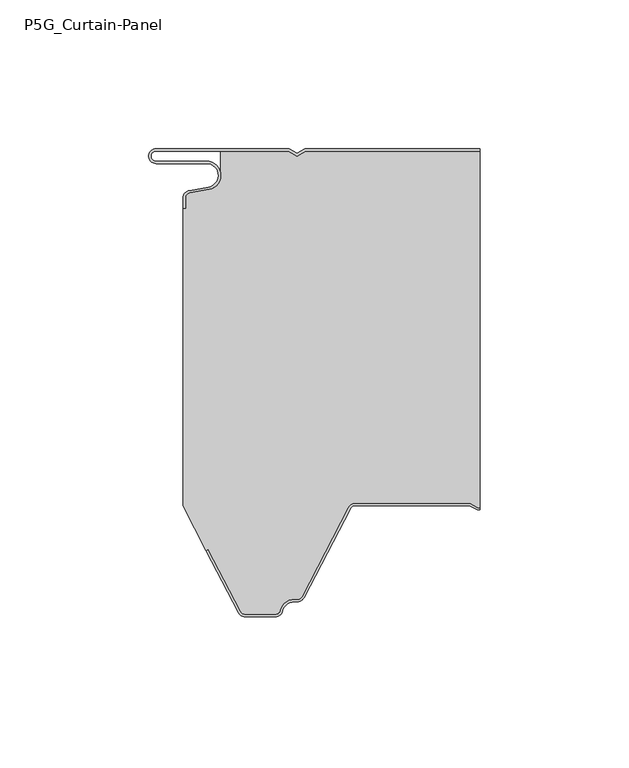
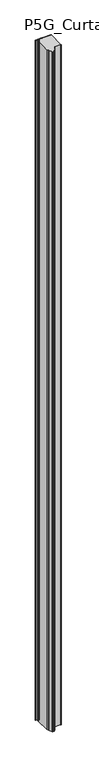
"""IFC4 building model written with IfcOpenShell, lengths in millimetres: plate geometry, P5G_Curtain-Panel : ACH_P5G_Rib-Roof-Panel_120M."""

from ifc_helpers import new_model, si_unit, frame, origin, place, context, project, spatial, polyline, circle_curve, source, transform, mapped, element, save
from ifc_brep_helpers import plane_surface, cylinder_surface, revolved_surface, advanced_brep


def p5g_curtain_panel_b9cf7069(model_context):
    return source(origin(), model_context, "Body", "AdvancedBrep", [
        advanced_brep(
        [(-50.0, -16.636349, 5000.0), (-50.0, -20.0, 5000.0), (-49.2, -20.0, 5000.0), (-49.2, -16.636349, 5000.0), (-47.7125667, -14.863695, 5000.0), (-41.266489, -13.7270771, 5000.0), (-42.1, -4.2, 5000.0), (-59.1, -4.2, 5000.0), (-59.1, -0.8, 5000.0), (-14.5143588, -0.8, 5000.0), (-11.6, -2.4826072, 5000.0), (-8.6856412, -0.8, 5000.0), (50.0, -0.8, 5000.0), (50.0, 0.0, 5000.0), (-8.9000007, 0.0, 5000.0), (-11.6, -1.5588466, 5000.0), (-14.2999993, 0.0, 5000.0), (-59.1, 0.0, 5000.0), (-59.1, -5.0, 5000.0), (-42.1, -5.0, 5000.0), (-41.4054075, -12.939231, 5000.0), (-47.851485, -14.075848, 5000.0), (-50.0, -16.636349, 0.0), (-47.8514853, -14.0758488, 0.0), (-41.4054075, -12.9392309, 0.0), (-42.1, -5.0, 0.0), (-59.1, -5.0, 0.0), (-59.1, 0.0, 0.0), (-14.2999993, 0.0, 0.0), (-11.6, -1.5588466, 0.0), (-8.9000007, 0.0, 0.0), (50.0, 0.0, 0.0), (50.0, -0.8, 0.0), (-8.6856412, -0.8, 0.0), (-11.6, -2.4826072, 0.0), (-14.5143588, -0.8, 0.0), (-59.1, -0.8, 0.0), (-59.1, -4.2, 0.0), (-42.1, -4.2, 0.0), (-41.266489, -13.7270773, 0.0), (-47.7125665, -14.8636942, 0.0), (-49.2, -16.636349, 0.0), (-49.2, -20.0, 0.0), (-50.0, -20.0, 0.0)],
        [
            (0, 1),
            (1, 2),
            (2, 3),
            (3, 4, circle_curve(frame((-47.4, -16.636349, 5000.0), z_axis=(0.0, 0.0, -1.0), x_axis=(1.0, 0.0, 0.0)), 1.8)),
            (4, 5),
            (5, 6, circle_curve(frame((-42.1, -9.0, 5000.0), z_axis=(0.0, 0.0, 1.0), x_axis=(1.0, 0.0, 0.0)), 4.8)),
            (6, 7),
            (7, 8, circle_curve(frame((-59.1, -2.5, 5000.0), z_axis=(0.0, 0.0, -1.0), x_axis=(1.0, 0.0, 0.0)), 1.7)),
            (8, 9),
            (9, 10),
            (10, 11),
            (11, 12),
            (12, 13),
            (13, 14),
            (14, 15),
            (15, 16),
            (16, 17),
            (17, 18, circle_curve(frame((-59.1, -2.5, 5000.0), z_axis=(0.0, 0.0, 1.0), x_axis=(1.0, 0.0, 0.0)), 2.5)),
            (18, 19),
            (19, 20, circle_curve(frame((-42.1, -9.0, 5000.0), z_axis=(0.0, 0.0, -1.0), x_axis=(1.0, 0.0, 0.0)), 4.0)),
            (20, 21),
            (21, 0, circle_curve(frame((-47.4, -16.636349, 5000.0), z_axis=(0.0, 0.0, 1.0), x_axis=(1.0, 0.0, 0.0)), 2.6)),
            (22, 23, circle_curve(frame((-47.4, -16.636349, 0.0), z_axis=(0.0, 0.0, -1.0), x_axis=(1.0, 0.0, 0.0)), 2.6)),
            (23, 24),
            (24, 25, circle_curve(frame((-42.1, -9.0, 0.0), z_axis=(0.0, 0.0, 1.0), x_axis=(1.0, 0.0, 0.0)), 4.0)),
            (25, 26),
            (26, 27, circle_curve(frame((-59.1, -2.5, 0.0), z_axis=(0.0, 0.0, -1.0), x_axis=(1.0, 0.0, 0.0)), 2.5)),
            (27, 28),
            (28, 29),
            (29, 30),
            (30, 31),
            (31, 32),
            (32, 33),
            (33, 34),
            (34, 35),
            (35, 36),
            (36, 37, circle_curve(frame((-59.1, -2.5, 0.0), z_axis=(0.0, 0.0, 1.0), x_axis=(1.0, 0.0, 0.0)), 1.7)),
            (37, 38),
            (38, 39, circle_curve(frame((-42.1, -9.0, 0.0), z_axis=(0.0, 0.0, -1.0), x_axis=(1.0, 0.0, 0.0)), 4.8)),
            (39, 40),
            (40, 41, circle_curve(frame((-47.4, -16.636349, 0.0), z_axis=(0.0, 0.0, 1.0), x_axis=(1.0, 0.0, 0.0)), 1.8)),
            (41, 42),
            (42, 43),
            (43, 22),
            (0, 22),
            (43, 1),
            (42, 2),
            (41, 3),
            (40, 4),
            (39, 5),
            (38, 6),
            (37, 7),
            (36, 8),
            (35, 9),
            (34, 10),
            (33, 11),
            (32, 12),
            (30, 14),
            (13, 31),
            (29, 15),
            (28, 16),
            (27, 17),
            (26, 18),
            (25, 19),
            (24, 20),
            (23, 21),
        ],
        [
            plane_surface(frame((-50.0, 0.0, 5000.0), z_axis=(0.0, 0.0, 1.0), x_axis=(0.0, 1.0, 0.0))),
            plane_surface(frame((-50.0, 0.0, 0.0), z_axis=(0.0, 0.0, -1.0), x_axis=(0.0, 1.0, 0.0))),
            plane_surface(frame((-50.0, -16.636349, 5000.0), z_axis=(-1.0, 0.0, 0.0), x_axis=(0.0, 0.0, -1.0))),
            plane_surface(frame((-50.0, -20.0, 5000.0), z_axis=(0.0, -1.0, 0.0), x_axis=(0.0, 0.0, -1.0))),
            plane_surface(frame((-49.2, -20.0, 5000.0), z_axis=(1.0, 0.0, 0.0), x_axis=(0.0, 0.0, -1.0))),
            revolved_surface(polyline([(-45.6, -16.636349, 0.0), (-45.6, -16.636349, 5000.0)]), (-47.4, -16.636349, 5000.0), (0.0, 0.0, -1.0)),
            plane_surface(frame((-47.7125665, -14.8636942, 5000.0), z_axis=(0.17364813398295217, -0.9848077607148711, 0.0), x_axis=(0.0, 0.0, -1.0))),
            cylinder_surface(frame((-42.1, -9.0, 5000.0), z_axis=(0.0, 0.0, 1.0), x_axis=(1.0, 0.0, 0.0)), 4.8),
            plane_surface(frame((-42.1, -4.2, 5000.0), z_axis=(0.0, 1.0, 0.0), x_axis=(0.0, 0.0, -1.0))),
            revolved_surface(polyline([(-57.4, -2.5, 0.0), (-57.4, -2.5, 5000.0)]), (-59.1, -2.5, 5000.0), (0.0, 0.0, -1.0)),
            plane_surface(frame((-59.1, -0.8, 5000.0), z_axis=(0.0, -1.0, 0.0), x_axis=(0.0, 0.0, -1.0))),
            plane_surface(frame((-14.5143588, -0.8, 5000.0), z_axis=(-0.5000003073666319, -0.8660252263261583, 0.0), x_axis=(0.0, 0.0, -1.0))),
            plane_surface(frame((-11.6, -2.4826072, 5000.0), z_axis=(0.5000003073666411, -0.866025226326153, 0.0), x_axis=(0.0, 0.0, -1.0))),
            plane_surface(frame((-8.6856412, -0.8, 5000.0), z_axis=(0.0, -1.0, 0.0), x_axis=(0.0, 0.0, -1.0))),
            plane_surface(frame((85.7000007, 0.0, 5000.0), z_axis=(0.0, 1.0, 0.0), x_axis=(0.0, 0.0, -1.0))),
            plane_surface(frame((-8.9000007, 0.0, 5000.0), z_axis=(-0.5000003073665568, 0.8660252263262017, 0.0), x_axis=(0.0, 0.0, -1.0))),
            plane_surface(frame((-11.6, -1.5588466, 5000.0), z_axis=(0.5000003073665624, 0.8660252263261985, 0.0), x_axis=(0.0, 0.0, -1.0))),
            plane_surface(frame((-14.2999993, 0.0, 5000.0), z_axis=(0.0, 1.0, 0.0), x_axis=(0.0, 0.0, -1.0))),
            cylinder_surface(frame((-59.1, -2.5, 5000.0), z_axis=(0.0, 0.0, 1.0), x_axis=(1.0, 0.0, 0.0)), 2.5),
            plane_surface(frame((-59.1, -5.0, 5000.0), z_axis=(0.0, -1.0, 0.0), x_axis=(0.0, 0.0, -1.0))),
            revolved_surface(polyline([(-38.1, -9.0, 0.0), (-38.1, -9.0, 5000.0)]), (-42.1, -9.0, 5000.0), (0.0, 0.0, -1.0)),
            plane_surface(frame((-41.4054075, -12.9392309, 5000.0), z_axis=(-0.17364813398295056, 0.9848077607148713, 0.0), x_axis=(0.0, 0.0, -1.0))),
            cylinder_surface(frame((-47.4, -16.636349, 5000.0), z_axis=(0.0, 0.0, 1.0), x_axis=(1.0, 0.0, 0.0)), 2.6),
            plane_surface(frame((50.0, 0.0, 5000.0), z_axis=(1.0, 0.0, 0.0), x_axis=(0.0, 0.0, -1.0))),
        ],
        [
            (0, [[1, 2, 3, 4, 5, 6, 7, 8, 9, 10, 11, 12, 13, 14, 15, 16, 17, 18, 19, 20, 21, 22]]),
            (1, [[23, 24, 25, 26, 27, 28, 29, 30, 31, 32, 33, 34, 35, 36, 37, 38, 39, 40, 41, 42, 43, 44]]),
            (2, [[-1, 45, -44, 46]]),
            (3, [[-2, -46, -43, 47]]),
            (4, [[-3, -47, -42, 48]]),
            (5, [[-4, -48, -41, 49]]),
            (6, [[-5, -49, -40, 50]]),
            (7, [[-6, -50, -39, 51]]),
            (8, [[-7, -51, -38, 52]]),
            (9, [[-8, -52, -37, 53]]),
            (10, [[-9, -53, -36, 54]]),
            (11, [[-10, -54, -35, 55]]),
            (12, [[-11, -55, -34, 56]]),
            (13, [[-56, -33, 57, -12]]),
            (14, [[58, -14, 59, -31]]),
            (15, [[-15, -58, -30, 60]]),
            (16, [[-16, -60, -29, 61]]),
            (17, [[-17, -61, -28, 62]]),
            (18, [[-18, -62, -27, 63]]),
            (19, [[-19, -63, -26, 64]]),
            (20, [[-20, -64, -25, 65]]),
            (21, [[-21, -65, -24, 66]]),
            (22, [[-22, -66, -23, -45]]),
            (23, [[-13, -57, -32, -59]]),
        ],
    ),
        advanced_brep(
        [(-30.6207387, -155.6314818, 0.0), (-41.5569015, -134.6340495, 0.0), (-42.1499858, -135.2271753, 0.0), (-50.0, -120.1551481, 0.0), (-50.0, -20.0, 0.0), (-49.2, -20.0, 0.0), (-49.2, -16.636349, 0.0), (-47.7125653, -14.8636948, 0.0), (-41.2664891, -13.7270773, 0.0), (-37.3182654, -8.5816526, 0.0), (-37.3182654, -0.8, 0.0), (-14.5143588, -0.8, 0.0), (-11.6, -2.4826072, 0.0), (-8.6856412, -0.8, 0.0), (50.0, -0.8, 0.0), (50.0, -120.7, 0.0), (49.2107961, -120.7, 0.0), (46.6127185, -119.2, 0.0), (8.090871, -119.2, 0.0), (5.6075115, -120.7065836, 0.0), (-9.9783733, -150.6314825, 0.0), (-11.574819, -151.6, 0.0), (-12.6272901, -151.6, 0.0), (-17.2841077, -155.2363636, 0.0), (-19.030414, -156.5999997, 0.0), (-29.024293, -156.5999997, 0.0), (-30.6207383, -155.6314813, 5000.0), (-29.024293, -156.5999997, 5000.0), (-19.030414, -156.5999997, 5000.0), (-17.2841077, -155.2363636, 5000.0), (-12.6272901, -151.6, 5000.0), (-11.574819, -151.6, 5000.0), (-9.9783737, -150.631482, 5000.0), (5.6075107, -120.7065835, 5000.0), (8.090871, -119.2, 5000.0), (46.6127185, -119.2, 5000.0), (49.2107961, -120.7, 5000.0), (50.0, -120.7, 5000.0), (50.0, -0.8, 5000.0), (-8.6856412, -0.8, 5000.0), (-11.6, -2.4826072, 5000.0), (-14.5143588, -0.8, 5000.0), (-37.3182654, -0.8, 5000.0), (-37.3182654, -8.5816526, 5000.0), (-41.2664891, -13.7270773, 5000.0), (-47.7125651, -14.863694, 5000.0), (-49.2, -16.636349, 5000.0), (-49.2, -20.0, 5000.0), (-50.0, -20.0, 5000.0), (-50.0, -120.1551481, 5000.0), (-42.1499858, -135.2271753, 5000.0), (-41.5569015, -134.6340495, 5000.0)],
        [
            (0, 1),
            (1, 2),
            (2, 3),
            (3, 4),
            (4, 5),
            (5, 6),
            (6, 7, circle_curve(frame((-47.4, -16.636349, 0.0), z_axis=(0.0, 0.0, -1.0), x_axis=(-1.0, 0.0, 0.0)), 1.8)),
            (7, 8),
            (8, 9, circle_curve(frame((-42.1, -9.0, 0.0), z_axis=(0.0, 0.0, 1.0), x_axis=(-1.0, 0.0, 0.0)), 4.8)),
            (9, 10),
            (10, 11),
            (11, 12),
            (12, 13),
            (13, 14),
            (14, 15),
            (15, 16),
            (16, 17),
            (17, 18),
            (18, 19, circle_curve(frame((8.090871, -122.0, 0.0), z_axis=(0.0, 0.0, 1.0), x_axis=(-1.0, 0.0, 0.0)), 2.8)),
            (19, 20),
            (20, 21, circle_curve(frame((-11.574819, -149.8, 0.0), z_axis=(0.0, 0.0, -1.0), x_axis=(-1.0, 0.0, 0.0)), 1.8)),
            (21, 22),
            (22, 23, circle_curve(frame((-12.6272901, -156.4, 0.0), z_axis=(0.0, 0.0, 1.0), x_axis=(-1.0, 0.0, 0.0)), 4.8)),
            (23, 24, circle_curve(frame((-19.030414, -154.8, 0.0), z_axis=(0.0, 0.0, -1.0), x_axis=(-1.0, 0.0, 0.0)), 1.7999997)),
            (24, 25),
            (25, 0, circle_curve(frame((-29.024293, -154.8, 0.0), z_axis=(0.0, 0.0, -1.0), x_axis=(-1.0, 0.0, 0.0)), 1.7999997)),
            (26, 27, circle_curve(frame((-29.024293, -154.8, 5000.0), z_axis=(0.0, 0.0, 1.0), x_axis=(-1.0, 0.0, 0.0)), 1.7999997)),
            (27, 28),
            (28, 29, circle_curve(frame((-19.030414, -154.8, 5000.0), z_axis=(0.0, 0.0, 1.0), x_axis=(-1.0, 0.0, 0.0)), 1.7999997)),
            (29, 30, circle_curve(frame((-12.6272901, -156.4, 5000.0), z_axis=(0.0, 0.0, -1.0), x_axis=(-1.0, 0.0, 0.0)), 4.8)),
            (30, 31),
            (31, 32, circle_curve(frame((-11.574819, -149.8, 5000.0), z_axis=(0.0, 0.0, 1.0), x_axis=(-1.0, 0.0, 0.0)), 1.8)),
            (32, 33),
            (33, 34, circle_curve(frame((8.090871, -122.0, 5000.0), z_axis=(0.0, 0.0, -1.0), x_axis=(-1.0, 0.0, 0.0)), 2.8)),
            (34, 35),
            (35, 36),
            (36, 37),
            (37, 38),
            (38, 39),
            (39, 40),
            (40, 41),
            (41, 42),
            (42, 43),
            (43, 44, circle_curve(frame((-42.1, -9.0, 5000.0), z_axis=(0.0, 0.0, -1.0), x_axis=(-1.0, 0.0, 0.0)), 4.8)),
            (44, 45),
            (45, 46, circle_curve(frame((-47.4, -16.636349, 5000.0), z_axis=(0.0, 0.0, 1.0), x_axis=(-1.0, 0.0, 0.0)), 1.8)),
            (46, 47),
            (47, 48),
            (48, 49),
            (49, 50),
            (50, 51),
            (51, 26),
            (0, 26),
            (51, 1),
            (50, 2),
            (49, 3),
            (48, 4),
            (47, 5),
            (46, 6),
            (45, 7),
            (44, 8),
            (43, 9),
            (42, 10),
            (41, 11),
            (40, 12),
            (39, 13),
            (38, 14),
            (36, 16),
            (15, 37),
            (35, 17),
            (34, 18),
            (33, 19),
            (32, 20),
            (31, 21),
            (30, 22),
            (29, 23),
            (28, 24),
            (27, 25),
        ],
        [
            plane_surface(frame((-50.0, 0.0, 0.0), z_axis=(0.0, 0.0, -1.0), x_axis=(0.0, 1.0, 0.0))),
            plane_surface(frame((-50.0, 0.0, 5000.0), z_axis=(0.0, 0.0, 1.0), x_axis=(0.0, 1.0, 0.0))),
            plane_surface(frame((-30.6207387, -155.6314818, 0.0), z_axis=(-0.8869140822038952, -0.46193442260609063, 0.0), x_axis=(0.0, 0.0, 1.0))),
            plane_surface(frame((-41.5569015, -134.6340495, 0.0), z_axis=(0.7071314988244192, -0.7070820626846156, 0.0), x_axis=(0.0, 0.0, 1.0))),
            plane_surface(frame((-42.1499858, -135.2271753, 0.0), z_axis=(-0.8869140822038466, -0.46193442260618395, 0.0), x_axis=(0.0, 0.0, 1.0))),
            plane_surface(frame((-50.0, -120.1551481, 0.0), z_axis=(-1.0, 0.0, 0.0), x_axis=(0.0, 0.0, 1.0))),
            plane_surface(frame((-50.0, -20.0, 0.0), z_axis=(0.0, 1.0, 0.0), x_axis=(0.0, 0.0, 1.0))),
            plane_surface(frame((-49.2, -20.0, 0.0), z_axis=(-1.0, 0.0, 0.0), x_axis=(0.0, 0.0, 1.0))),
            cylinder_surface(frame((-47.4, -16.636349, 0.0), z_axis=(0.0, 0.0, -1.0), x_axis=(-1.0, 0.0, 0.0)), 1.8),
            plane_surface(frame((-47.7125651, -14.863694, 0.0), z_axis=(-0.17364811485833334, 0.9848077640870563, 0.0), x_axis=(0.0, 0.0, 1.0))),
            revolved_surface(polyline([(-46.9, -9.0, 5000.0), (-46.9, -9.0, 0.0)]), (-42.1, -9.0, 0.0), (0.0, 0.0, 1.0)),
            plane_surface(frame((-37.3182654, -8.5816526, 0.0), z_axis=(-1.0, 0.0, 0.0), x_axis=(0.0, 0.0, 1.0))),
            plane_surface(frame((-37.3182654, -0.8, 0.0), z_axis=(0.0, 1.0, 0.0), x_axis=(0.0, 0.0, 1.0))),
            plane_surface(frame((-14.5143588, -0.8, 0.0), z_axis=(0.500000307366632, 0.8660252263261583, 0.0), x_axis=(0.0, 0.0, 1.0))),
            plane_surface(frame((-11.6, -2.4826072, 0.0), z_axis=(-0.500000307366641, 0.8660252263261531, 0.0), x_axis=(0.0, 0.0, 1.0))),
            plane_surface(frame((-8.6856412, -0.8, 0.0), z_axis=(0.0, 1.0, 0.0), x_axis=(0.0, 0.0, 1.0))),
            plane_surface(frame((81.5859248, -120.7, 0.0), z_axis=(0.0, -1.0, 0.0), x_axis=(0.0, 0.0, 1.0))),
            plane_surface(frame((49.2107961, -120.7, 0.0), z_axis=(-0.49999979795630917, -0.8660255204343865, 0.0), x_axis=(0.0, 0.0, 1.0))),
            plane_surface(frame((46.6127185, -119.2, 0.0), z_axis=(0.0, -1.0, 0.0), x_axis=(0.0, 0.0, 1.0))),
            revolved_surface(polyline([(5.290871, -122.0, 5000.0), (5.290871, -122.0, 0.0)]), (8.090871, -122.0, 0.0), (0.0, 0.0, 1.0)),
            plane_surface(frame((5.6075107, -120.7065835, 0.0), z_axis=(0.8869140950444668, -0.46193439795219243, 0.0), x_axis=(0.0, 0.0, 1.0))),
            cylinder_surface(frame((-11.574819, -149.8, 0.0), z_axis=(0.0, 0.0, -1.0), x_axis=(-1.0, 0.0, 0.0)), 1.8),
            plane_surface(frame((-11.574819, -151.6, 0.0), z_axis=(0.0, -1.0, 0.0), x_axis=(0.0, 0.0, 1.0))),
            revolved_surface(polyline([(-17.4272901, -156.4, 5000.0), (-17.4272901, -156.4, 0.0)]), (-12.6272901, -156.4, 0.0), (0.0, 0.0, 1.0)),
            cylinder_surface(frame((-19.030414, -154.8, 0.0), z_axis=(0.0, 0.0, -1.0), x_axis=(-1.0, 0.0, 0.0)), 1.7999997),
            plane_surface(frame((-19.030414, -156.5999997, 0.0), z_axis=(0.0, -1.0, 0.0), x_axis=(0.0, 0.0, 1.0))),
            cylinder_surface(frame((-29.024293, -154.8, 0.0), z_axis=(0.0, 0.0, -1.0), x_axis=(-1.0, 0.0, 0.0)), 1.7999997),
            plane_surface(frame((50.0, 0.0, 5000.0), z_axis=(1.0, 0.0, 0.0), x_axis=(0.0, 0.0, -1.0))),
        ],
        [
            (0, [[1, 2, 3, 4, 5, 6, 7, 8, 9, 10, 11, 12, 13, 14, 15, 16, 17, 18, 19, 20, 21, 22, 23, 24, 25, 26]]),
            (1, [[27, 28, 29, 30, 31, 32, 33, 34, 35, 36, 37, 38, 39, 40, 41, 42, 43, 44, 45, 46, 47, 48, 49, 50, 51, 52]]),
            (2, [[-1, 53, -52, 54]]),
            (3, [[-2, -54, -51, 55]]),
            (4, [[-3, -55, -50, 56]]),
            (5, [[-4, -56, -49, 57]]),
            (6, [[-5, -57, -48, 58]]),
            (7, [[-6, -58, -47, 59]]),
            (8, [[-7, -59, -46, 60]]),
            (9, [[-8, -60, -45, 61]]),
            (10, [[-9, -61, -44, 62]]),
            (11, [[-10, -62, -43, 63]]),
            (12, [[-11, -63, -42, 64]]),
            (13, [[-12, -64, -41, 65]]),
            (14, [[-13, -65, -40, 66]]),
            (15, [[-66, -39, 67, -14]]),
            (16, [[68, -16, 69, -37]]),
            (17, [[-17, -68, -36, 70]]),
            (18, [[-18, -70, -35, 71]]),
            (19, [[-19, -71, -34, 72]]),
            (20, [[-20, -72, -33, 73]]),
            (21, [[-21, -73, -32, 74]]),
            (22, [[-22, -74, -31, 75]]),
            (23, [[-23, -75, -30, 76]]),
            (24, [[-24, -76, -29, 77]]),
            (25, [[-25, -77, -28, 78]]),
            (26, [[-26, -78, -27, -53]]),
            (27, [[-15, -67, -38, -69]]),
        ],
    ),
        advanced_brep(
        [(49.2107962, -120.7, 5000.0), (46.6127186, -119.2, 5000.0), (8.090871, -119.2, 5000.0), (5.6075116, -120.7065836, 5000.0), (-9.9783733, -150.6314825, 5000.0), (-11.574819, -151.6, 5000.0), (-12.62729, -151.6, 5000.0), (-17.2841076, -155.2363636, 5000.0), (-19.030414, -156.6, 5000.0), (-29.024293, -156.6, 5000.0), (-30.6207383, -155.631482, 5000.0), (-41.5569015, -134.6340495, 5000.0), (-42.15, -135.227148, 5000.0), (-31.33027, -156.00103, 5000.0), (-29.024293, -157.4, 5000.0), (-19.030414, -157.4, 5000.0), (-16.5079711, -155.4303031, 5000.0), (-12.62729, -152.4, 5000.0), (-11.574819, -152.4, 5000.0), (-9.2688424, -151.0010295, 5000.0), (6.317042, -121.076131, 5000.0), (8.090871, -120.0, 5000.0), (46.3983593, -120.0, 5000.0), (48.9964369, -121.5, 5000.0), (50.0, -121.5, 5000.0), (50.0, -120.7, 5000.0), (48.9964369, -121.5, 0.0), (46.3983593, -120.0, 0.0), (8.090871, -120.0, 0.0), (6.3170428, -121.0761312, 0.0), (-9.268842, -151.00103, 0.0), (-11.574819, -152.4, 0.0), (-12.62729, -152.4, 0.0), (-16.5079713, -155.430303, 0.0), (-19.030414, -157.4, 0.0), (-29.024293, -157.4, 0.0), (-31.3302696, -156.0010295, 0.0), (-42.15, -135.227148, 0.0), (-41.5569015, -134.6340495, 0.0), (-30.6207387, -155.6314825, 0.0), (-29.024293, -156.6, 0.0), (-19.030414, -156.6, 0.0), (-17.2841074, -155.2363637, 0.0), (-12.62729, -151.6, 0.0), (-11.574819, -151.6, 0.0), (-9.9783737, -150.631482, 0.0), (5.6075107, -120.7065835, 0.0), (8.090871, -119.2, 0.0), (46.6127186, -119.2, 0.0), (49.2107962, -120.7, 0.0), (50.0, -120.7, 0.0), (50.0, -121.5, 0.0)],
        [
            (0, 1),
            (1, 2),
            (2, 3, circle_curve(frame((8.090871, -122.0, 5000.0), z_axis=(0.0, 0.0, 1.0), x_axis=(1.0, 0.0, 0.0)), 2.8)),
            (3, 4),
            (4, 5, circle_curve(frame((-11.574819, -149.8, 5000.0), z_axis=(0.0, 0.0, -1.0), x_axis=(1.0, 0.0, 0.0)), 1.8)),
            (5, 6),
            (6, 7, circle_curve(frame((-12.62729, -156.4, 5000.0), z_axis=(0.0, 0.0, 1.0), x_axis=(1.0, 0.0, 0.0)), 4.8)),
            (7, 8, circle_curve(frame((-19.030414, -154.8, 5000.0), z_axis=(0.0, 0.0, -1.0), x_axis=(1.0, 0.0, 0.0)), 1.8)),
            (8, 9),
            (9, 10, circle_curve(frame((-29.024293, -154.8, 5000.0), z_axis=(0.0, 0.0, -1.0), x_axis=(1.0, 0.0, 0.0)), 1.8)),
            (10, 11),
            (11, 12),
            (12, 13),
            (13, 14, circle_curve(frame((-29.024293, -154.8, 5000.0), z_axis=(0.0, 0.0, 1.0), x_axis=(1.0, 0.0, 0.0)), 2.6)),
            (14, 15),
            (15, 16, circle_curve(frame((-19.030414, -154.8, 5000.0), z_axis=(0.0, 0.0, 1.0), x_axis=(1.0, 0.0, 0.0)), 2.6)),
            (16, 17, circle_curve(frame((-12.62729, -156.4, 5000.0), z_axis=(0.0, 0.0, -1.0), x_axis=(1.0, 0.0, 0.0)), 4.0)),
            (17, 18),
            (18, 19, circle_curve(frame((-11.574819, -149.8, 5000.0), z_axis=(0.0, 0.0, 1.0), x_axis=(1.0, 0.0, 0.0)), 2.6)),
            (19, 20),
            (20, 21, circle_curve(frame((8.090871, -122.0, 5000.0), z_axis=(0.0, 0.0, -1.0), x_axis=(1.0, 0.0, 0.0)), 2.0)),
            (21, 22),
            (22, 23),
            (23, 24),
            (24, 25),
            (25, 0),
            (26, 27),
            (27, 28),
            (28, 29, circle_curve(frame((8.090871, -122.0, 0.0), z_axis=(0.0, 0.0, 1.0), x_axis=(1.0, 0.0, 0.0)), 2.0)),
            (29, 30),
            (30, 31, circle_curve(frame((-11.574819, -149.8, 0.0), z_axis=(0.0, 0.0, -1.0), x_axis=(1.0, 0.0, 0.0)), 2.6)),
            (31, 32),
            (32, 33, circle_curve(frame((-12.62729, -156.4, 0.0), z_axis=(0.0, 0.0, 1.0), x_axis=(1.0, 0.0, 0.0)), 4.0)),
            (33, 34, circle_curve(frame((-19.030414, -154.8, 0.0), z_axis=(0.0, 0.0, -1.0), x_axis=(1.0, 0.0, 0.0)), 2.6)),
            (34, 35),
            (35, 36, circle_curve(frame((-29.024293, -154.8, 0.0), z_axis=(0.0, 0.0, -1.0), x_axis=(1.0, 0.0, 0.0)), 2.6)),
            (36, 37),
            (37, 38),
            (38, 39),
            (39, 40, circle_curve(frame((-29.024293, -154.8, 0.0), z_axis=(0.0, 0.0, 1.0), x_axis=(1.0, 0.0, 0.0)), 1.8)),
            (40, 41),
            (41, 42, circle_curve(frame((-19.030414, -154.8, 0.0), z_axis=(0.0, 0.0, 1.0), x_axis=(1.0, 0.0, 0.0)), 1.8)),
            (42, 43, circle_curve(frame((-12.62729, -156.4, 0.0), z_axis=(0.0, 0.0, -1.0), x_axis=(1.0, 0.0, 0.0)), 4.8)),
            (43, 44),
            (44, 45, circle_curve(frame((-11.574819, -149.8, 0.0), z_axis=(0.0, 0.0, 1.0), x_axis=(1.0, 0.0, 0.0)), 1.8)),
            (45, 46),
            (46, 47, circle_curve(frame((8.090871, -122.0, 0.0), z_axis=(0.0, 0.0, -1.0), x_axis=(1.0, 0.0, 0.0)), 2.8)),
            (47, 48),
            (48, 49),
            (49, 50),
            (50, 51),
            (51, 26),
            (49, 0),
            (25, 50),
            (48, 1),
            (47, 2),
            (46, 3),
            (45, 4),
            (44, 5),
            (43, 6),
            (42, 7),
            (41, 8),
            (40, 9),
            (39, 10),
            (38, 11),
            (37, 12),
            (36, 13),
            (35, 14),
            (34, 15),
            (33, 16),
            (32, 17),
            (31, 18),
            (30, 19),
            (29, 20),
            (28, 21),
            (27, 22),
            (26, 23),
            (51, 24),
        ],
        [
            plane_surface(frame((-50.0, -120.0, 5000.0), z_axis=(0.0, 0.0, 1.0), x_axis=(0.0, 1.0, 0.0))),
            plane_surface(frame((-50.0, -120.0, 0.0), z_axis=(0.0, 0.0, -1.0), x_axis=(0.0, 1.0, 0.0))),
            plane_surface(frame((81.5859248, -120.7, 5000.0), z_axis=(0.0, 1.0, 0.0), x_axis=(0.0, 0.0, -1.0))),
            plane_surface(frame((49.2107962, -120.7, 5000.0), z_axis=(0.4999997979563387, 0.8660255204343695, 0.0), x_axis=(0.0, 0.0, -1.0))),
            plane_surface(frame((46.6127186, -119.2, 5000.0), z_axis=(0.0, 1.0, 0.0), x_axis=(0.0, 0.0, -1.0))),
            cylinder_surface(frame((8.090871, -122.0, 5000.0), z_axis=(0.0, 0.0, 1.0), x_axis=(1.0, 0.0, 0.0)), 2.8),
            plane_surface(frame((5.6075107, -120.7065835, 5000.0), z_axis=(-0.8869140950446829, 0.4619343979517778, 0.0), x_axis=(0.0, 0.0, -1.0))),
            revolved_surface(polyline([(-9.774818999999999, -149.8, 0.0), (-9.774818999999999, -149.8, 5000.0)]), (-11.574819, -149.8, 5000.0), (0.0, 0.0, -1.0)),
            plane_surface(frame((-11.574819, -151.6, 5000.0), z_axis=(0.0, 1.0, 0.0), x_axis=(0.0, 0.0, -1.0))),
            cylinder_surface(frame((-12.62729, -156.4, 5000.0), z_axis=(0.0, 0.0, 1.0), x_axis=(1.0, 0.0, 0.0)), 4.8),
            revolved_surface(polyline([(-17.230414, -154.8, 0.0), (-17.230414, -154.8, 5000.0)]), (-19.030414, -154.8, 5000.0), (0.0, 0.0, -1.0)),
            plane_surface(frame((-19.030414, -156.6, 5000.0), z_axis=(0.0, 1.0, 0.0), x_axis=(0.0, 0.0, -1.0))),
            revolved_surface(polyline([(-27.224293, -154.8, 0.0), (-27.224293, -154.8, 5000.0)]), (-29.024293, -154.8, 5000.0), (0.0, 0.0, -1.0)),
            plane_surface(frame((-30.6207387, -155.6314825, 5000.0), z_axis=(0.8869140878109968, 0.46193441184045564, 0.0), x_axis=(0.0, 0.0, -1.0))),
            plane_surface(frame((-41.5569015, -134.6340495, 5000.0), z_axis=(-0.7071067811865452, 0.7071067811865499, 0.0), x_axis=(0.0, 0.0, -1.0))),
            plane_surface(frame((-42.15, -135.227148, 5000.0), z_axis=(-0.8869140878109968, -0.46193441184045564, 0.0), x_axis=(0.0, 0.0, -1.0))),
            cylinder_surface(frame((-29.024293, -154.8, 5000.0), z_axis=(0.0, 0.0, 1.0), x_axis=(1.0, 0.0, 0.0)), 2.6),
            plane_surface(frame((-29.024293, -157.4, 5000.0), z_axis=(0.0, -1.0, 0.0), x_axis=(0.0, 0.0, -1.0))),
            cylinder_surface(frame((-19.030414, -154.8, 5000.0), z_axis=(0.0, 0.0, 1.0), x_axis=(1.0, 0.0, 0.0)), 2.6),
            revolved_surface(polyline([(-8.62729, -156.4, 0.0), (-8.62729, -156.4, 5000.0)]), (-12.62729, -156.4, 5000.0), (0.0, 0.0, -1.0)),
            plane_surface(frame((-12.62729, -152.4, 5000.0), z_axis=(0.0, -1.0, 0.0), x_axis=(0.0, 0.0, -1.0))),
            cylinder_surface(frame((-11.574819, -149.8, 5000.0), z_axis=(0.0, 0.0, 1.0), x_axis=(1.0, 0.0, 0.0)), 2.6),
            plane_surface(frame((-9.268842, -151.00103, 5000.0), z_axis=(0.8869140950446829, -0.4619343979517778, 0.0), x_axis=(0.0, 0.0, -1.0))),
            revolved_surface(polyline([(10.090871, -122.0, 0.0), (10.090871, -122.0, 5000.0)]), (8.090871, -122.0, 5000.0), (0.0, 0.0, -1.0)),
            plane_surface(frame((8.090871, -120.0, 5000.0), z_axis=(0.0, -1.0, 0.0), x_axis=(0.0, 0.0, -1.0))),
            plane_surface(frame((46.3983593, -120.0, 5000.0), z_axis=(-0.4999997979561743, -0.8660255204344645, 0.0), x_axis=(0.0, 0.0, -1.0))),
            plane_surface(frame((48.9964369, -121.5, 5000.0), z_axis=(0.0, -1.0, 0.0), x_axis=(0.0, 0.0, -1.0))),
            plane_surface(frame((50.0, 0.0, 5000.0), z_axis=(1.0, 0.0, 0.0), x_axis=(0.0, 0.0, -1.0))),
        ],
        [
            (0, [[1, 2, 3, 4, 5, 6, 7, 8, 9, 10, 11, 12, 13, 14, 15, 16, 17, 18, 19, 20, 21, 22, 23, 24, 25, 26]]),
            (1, [[27, 28, 29, 30, 31, 32, 33, 34, 35, 36, 37, 38, 39, 40, 41, 42, 43, 44, 45, 46, 47, 48, 49, 50, 51, 52]]),
            (2, [[53, -26, 54, -50]]),
            (3, [[-1, -53, -49, 55]]),
            (4, [[-2, -55, -48, 56]]),
            (5, [[-3, -56, -47, 57]]),
            (6, [[-4, -57, -46, 58]]),
            (7, [[-5, -58, -45, 59]]),
            (8, [[-6, -59, -44, 60]]),
            (9, [[-7, -60, -43, 61]]),
            (10, [[-8, -61, -42, 62]]),
            (11, [[-9, -62, -41, 63]]),
            (12, [[-10, -63, -40, 64]]),
            (13, [[-11, -64, -39, 65]]),
            (14, [[-12, -65, -38, 66]]),
            (15, [[-13, -66, -37, 67]]),
            (16, [[-14, -67, -36, 68]]),
            (17, [[-15, -68, -35, 69]]),
            (18, [[-16, -69, -34, 70]]),
            (19, [[-17, -70, -33, 71]]),
            (20, [[-18, -71, -32, 72]]),
            (21, [[-19, -72, -31, 73]]),
            (22, [[-20, -73, -30, 74]]),
            (23, [[-21, -74, -29, 75]]),
            (24, [[-22, -75, -28, 76]]),
            (25, [[-23, -76, -27, 77]]),
            (26, [[-77, -52, 78, -24]]),
            (27, [[-25, -78, -51, -54]]),
        ],
    ),
    ])


if __name__ == "__main__":
    model = new_model("IFC4")
    model_context = context("Model", 3, world=origin())
    ifc_project = project(units=[si_unit("LENGTHUNIT", "METRE", prefix="MILLI")], contexts=[model_context])
    site = spatial("IfcSite", under=ifc_project)
    building = spatial("IfcBuilding", under=site)
    placement = place(None, origin())
    p5g_curtain_panel_shape = p5g_curtain_panel_b9cf7069(model_context)
    element("IfcPlate", 1, ObjectType="P5G_Curtain-Panel : ACH_P5G_Rib-Roof-Panel_120M", at=placement, inside=building, context=model_context, shape_type="MappedRepresentation", body=[
        mapped(p5g_curtain_panel_shape, transform((0.0, 0.0, 0.0), x_axis=(1.0, 0.0, 0.0), y_axis=(0.0, 1.0, 0.0), z_axis=(0.0, 0.0, 1.0))),
    ])
    save(model, "model.ifc")
